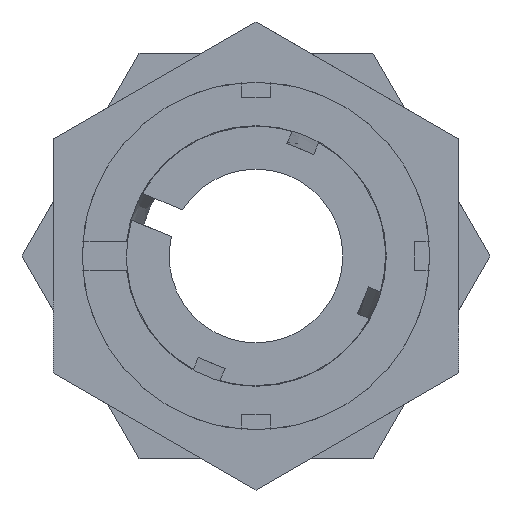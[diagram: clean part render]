
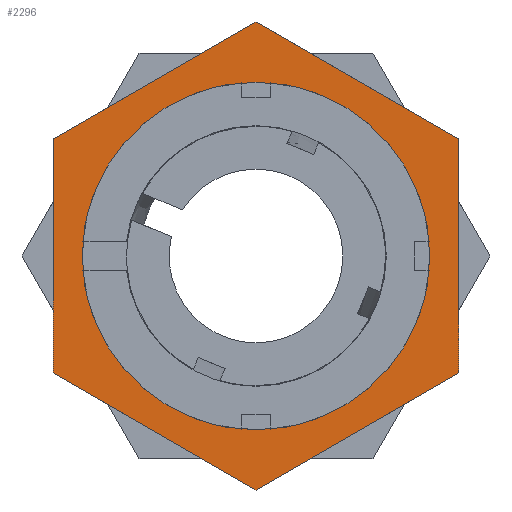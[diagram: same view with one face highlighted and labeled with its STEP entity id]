
A CAD part, left-side view. The second image highlights one B-rep face of the part: STEP entity #2296.
In plain terms, the highlighted planar face has unit normal (-1, 0, 0).
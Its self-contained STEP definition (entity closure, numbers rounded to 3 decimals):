
#60 = EDGE_LOOP ( 'NONE', ( #77, #76 ) ) ;
#63 = EDGE_LOOP ( 'NONE', ( #74, #73, #72, #71, #70, #69 ) ) ;
#69 = ORIENTED_EDGE ( 'NONE', *, *, #533, .T. ) ;
#70 = ORIENTED_EDGE ( 'NONE', *, *, #537, .T. ) ;
#71 = ORIENTED_EDGE ( 'NONE', *, *, #536, .T. ) ;
#72 = ORIENTED_EDGE ( 'NONE', *, *, #550, .T. ) ;
#73 = ORIENTED_EDGE ( 'NONE', *, *, #538, .T. ) ;
#74 = ORIENTED_EDGE ( 'NONE', *, *, #534, .T. ) ;
#76 = ORIENTED_EDGE ( 'NONE', *, *, #542, .F. ) ;
#77 = ORIENTED_EDGE ( 'NONE', *, *, #535, .F. ) ;
#374 = VERTEX_POINT ( 'NONE', #919 ) ;
#375 = VERTEX_POINT ( 'NONE', #920 ) ;
#533 = EDGE_CURVE ( 'NONE', #2302, #2317, #1874, .T. ) ;
#534 = EDGE_CURVE ( 'NONE', #2317, #2316, #1861, .T. ) ;
#535 = EDGE_CURVE ( 'NONE', #375, #374, #1880, .T. ) ;
#536 = EDGE_CURVE ( 'NONE', #2323, #2322, #1879, .T. ) ;
#537 = EDGE_CURVE ( 'NONE', #2322, #2302, #1881, .T. ) ;
#538 = EDGE_CURVE ( 'NONE', #2316, #2324, #1883, .T. ) ;
#542 = EDGE_CURVE ( 'NONE', #374, #375, #1892, .T. ) ;
#550 = EDGE_CURVE ( 'NONE', #2324, #2323, #1905, .T. ) ;
#696 = AXIS2_PLACEMENT_3D ( 'NONE', #1152, #1155, #1156 ) ;
#699 = AXIS2_PLACEMENT_3D ( 'NONE', #1168, #1170, #1171 ) ;
#745 = AXIS2_PLACEMENT_3D ( 'NONE', #1571, #1574, #1575 ) ;
#919 = CARTESIAN_POINT ( 'NONE',  ( 9.52, 0., -6.001 ) ) ;
#920 = CARTESIAN_POINT ( 'NONE',  ( 9.52, 0., 6.001 ) ) ;
#1143 = CARTESIAN_POINT ( 'NONE',  ( 9.52, 7., 4.041 ) ) ;
#1149 = CARTESIAN_POINT ( 'NONE',  ( 9.52, -7., -4.041 ) ) ;
#1150 = CARTESIAN_POINT ( 'NONE',  ( 9.52, 0., 8.083 ) ) ;
#1151 = DIRECTION ( 'NONE',  ( 0., 0.866, 0.5 ) ) ;
#1152 = CARTESIAN_POINT ( 'NONE',  ( 9.52, 0., 0. ) ) ;
#1153 = DIRECTION ( 'NONE',  ( 0., 0.866, -0.5 ) ) ;
#1155 = DIRECTION ( 'NONE',  ( -1., 0., 0. ) ) ;
#1156 = DIRECTION ( 'NONE',  ( 0., 0., 1. ) ) ;
#1158 = DIRECTION ( 'NONE',  ( 0., -0.866, 0.5 ) ) ;
#1159 = CARTESIAN_POINT ( 'NONE',  ( 9.52, -7., 4.041 ) ) ;
#1160 = DIRECTION ( 'NONE',  ( 0., 0., 1. ) ) ;
#1161 = CARTESIAN_POINT ( 'NONE',  ( 9.52, 7., -4.041 ) ) ;
#1162 = DIRECTION ( 'NONE',  ( 0., 0., -1. ) ) ;
#1168 = CARTESIAN_POINT ( 'NONE',  ( 9.52, 0., 0. ) ) ;
#1170 = DIRECTION ( 'NONE',  ( -1., 0., 0. ) ) ;
#1171 = DIRECTION ( 'NONE',  ( 0., 0., 1. ) ) ;
#1186 = CARTESIAN_POINT ( 'NONE',  ( 9.52, 0., -8.083 ) ) ;
#1187 = DIRECTION ( 'NONE',  ( 0., -0.866, -0.5 ) ) ;
#1571 = CARTESIAN_POINT ( 'NONE',  ( 9.52, 50., 0. ) ) ;
#1572 = PLANE ( 'NONE',  #745 ) ;
#1574 = DIRECTION ( 'NONE',  ( 1., 0., 0. ) ) ;
#1575 = DIRECTION ( 'NONE',  ( 0., 0., -1. ) ) ;
#1589 = CARTESIAN_POINT ( 'NONE',  ( 9.52, -7., 4.041 ) ) ;
#1603 = CARTESIAN_POINT ( 'NONE',  ( 9.52, 7., 4.041 ) ) ;
#1604 = CARTESIAN_POINT ( 'NONE',  ( 9.52, 0., 8.083 ) ) ;
#1608 = CARTESIAN_POINT ( 'NONE',  ( 9.52, -7., -4.041 ) ) ;
#1609 = CARTESIAN_POINT ( 'NONE',  ( 9.52, 0., -8.083 ) ) ;
#1610 = CARTESIAN_POINT ( 'NONE',  ( 9.52, 7., -4.041 ) ) ;
#1861 = LINE ( 'NONE', #1143, #1876 ) ;
#1869 = VECTOR ( 'NONE', #1158, 1000. ) ;
#1874 = LINE ( 'NONE', #1150, #1875 ) ;
#1875 = VECTOR ( 'NONE', #1151, 1000. ) ;
#1876 = VECTOR ( 'NONE', #1153, 1000. ) ;
#1879 = LINE ( 'NONE', #1149, #1869 ) ;
#1880 = CIRCLE ( 'NONE', #696, 6.001 ) ;
#1881 = LINE ( 'NONE', #1159, #1882 ) ;
#1882 = VECTOR ( 'NONE', #1160, 1000. ) ;
#1883 = LINE ( 'NONE', #1161, #1884 ) ;
#1884 = VECTOR ( 'NONE', #1162, 1000. ) ;
#1892 = CIRCLE ( 'NONE', #699, 6.001 ) ;
#1905 = LINE ( 'NONE', #1186, #1906 ) ;
#1906 = VECTOR ( 'NONE', #1187, 1000. ) ;
#2156 = FACE_BOUND ( 'NONE', #60, .T. ) ;
#2161 = FACE_OUTER_BOUND ( 'NONE', #63, .T. ) ;
#2296 = ADVANCED_FACE ( 'NONE', ( #2156, #2161 ), #1572, .F. ) ;
#2302 = VERTEX_POINT ( 'NONE', #1589 ) ;
#2316 = VERTEX_POINT ( 'NONE', #1603 ) ;
#2317 = VERTEX_POINT ( 'NONE', #1604 ) ;
#2322 = VERTEX_POINT ( 'NONE', #1608 ) ;
#2323 = VERTEX_POINT ( 'NONE', #1609 ) ;
#2324 = VERTEX_POINT ( 'NONE', #1610 ) ;
